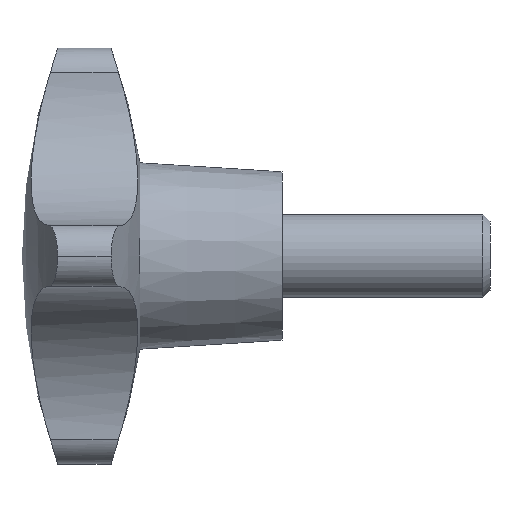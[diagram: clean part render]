
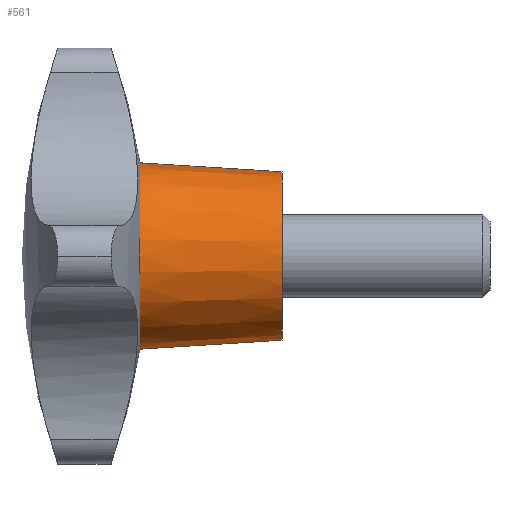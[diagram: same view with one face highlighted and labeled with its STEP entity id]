
A CAD part, left-side view. The second image highlights one B-rep face of the part: STEP entity #561.
In plain terms, the highlighted conical face has half-angle 3.601 degrees and reference radius 8.1 mm.
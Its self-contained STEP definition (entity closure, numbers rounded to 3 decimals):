
#8 = CARTESIAN_POINT ( 'NONE',  ( 0., 0., -8.1 ) ) ;
#12 = EDGE_CURVE ( 'E328', #913, #595, #903, .T. ) ;
#24 = DIRECTION ( 'NONE',  ( 0., 0., 1. ) ) ;
#51 = DIRECTION ( 'NONE',  ( 0., 1., 0. ) ) ;
#54 = CARTESIAN_POINT ( 'NONE',  ( 0., 13.673, 0. ) ) ;
#68 = CARTESIAN_POINT ( 'NONE',  ( 0., 13.673, -8.961 ) ) ;
#84 = CIRCLE ( 'NONE', #1053, 8.961 ) ;
#133 = DIRECTION ( 'NONE',  ( -1., 0., 0. ) ) ;
#164 = EDGE_CURVE ( 'NONE', #913, #827, #919, .T. ) ;
#182 = EDGE_LOOP ( 'NONE', ( #754, #277, #885, #690 ) ) ;
#206 = CARTESIAN_POINT ( 'NONE',  ( 0., 0., 0. ) ) ;
#233 = AXIS2_PLACEMENT_3D ( 'NONE', #206, #972, #24 ) ;
#254 = CARTESIAN_POINT ( 'NONE',  ( 0., 0., 0. ) ) ;
#277 = ORIENTED_EDGE ( 'NONE', *, *, #12, .T. ) ;
#332 = EDGE_CURVE ( 'NONE', #595, #783, #530, .T. ) ;
#384 = CARTESIAN_POINT ( 'NONE',  ( 0., 0., 8.1 ) ) ;
#408 = CARTESIAN_POINT ( 'NONE',  ( 0., 0., 8.1 ) ) ;
#425 = FACE_OUTER_BOUND ( 'NONE', #182, .T. ) ;
#451 = VECTOR ( 'NONE', #904, 1000. ) ;
#490 = VECTOR ( 'NONE', #912, 1000. ) ;
#530 = LINE ( 'NONE', #408, #490 ) ;
#561 = ADVANCED_FACE ( 'E326', ( #425 ), #842, .T. ) ;
#562 = CARTESIAN_POINT ( 'NONE',  ( 0., 13.673, 8.961 ) ) ;
#595 = VERTEX_POINT ( 'NONE', #384 ) ;
#690 = ORIENTED_EDGE ( 'NONE', *, *, #723, .F. ) ;
#723 = EDGE_CURVE ( 'E327', #827, #783, #84, .T. ) ;
#754 = ORIENTED_EDGE ( 'NONE', *, *, #164, .F. ) ;
#783 = VERTEX_POINT ( 'NONE', #562 ) ;
#804 = CARTESIAN_POINT ( 'NONE',  ( 0., 0., -8.1 ) ) ;
#819 = DIRECTION ( 'NONE',  ( 0., 1., 0. ) ) ;
#827 = VERTEX_POINT ( 'NONE', #68 ) ;
#842 = CONICAL_SURFACE ( 'NONE', #233, 8.1, 0.063 ) ;
#885 = ORIENTED_EDGE ( 'NONE', *, *, #332, .T. ) ;
#903 = CIRCLE ( 'NONE', #978, 8.1 ) ;
#904 = DIRECTION ( 'NONE',  ( 0., 0.998, -0.063 ) ) ;
#912 = DIRECTION ( 'NONE',  ( 0., 0.998, 0.063 ) ) ;
#913 = VERTEX_POINT ( 'NONE', #8 ) ;
#919 = LINE ( 'NONE', #804, #451 ) ;
#972 = DIRECTION ( 'NONE',  ( 0., 1., 0. ) ) ;
#978 = AXIS2_PLACEMENT_3D ( 'NONE', #254, #819, #1081 ) ;
#1053 = AXIS2_PLACEMENT_3D ( 'NONE', #54, #51, #133 ) ;
#1081 = DIRECTION ( 'NONE',  ( 0., 0., 1. ) ) ;
